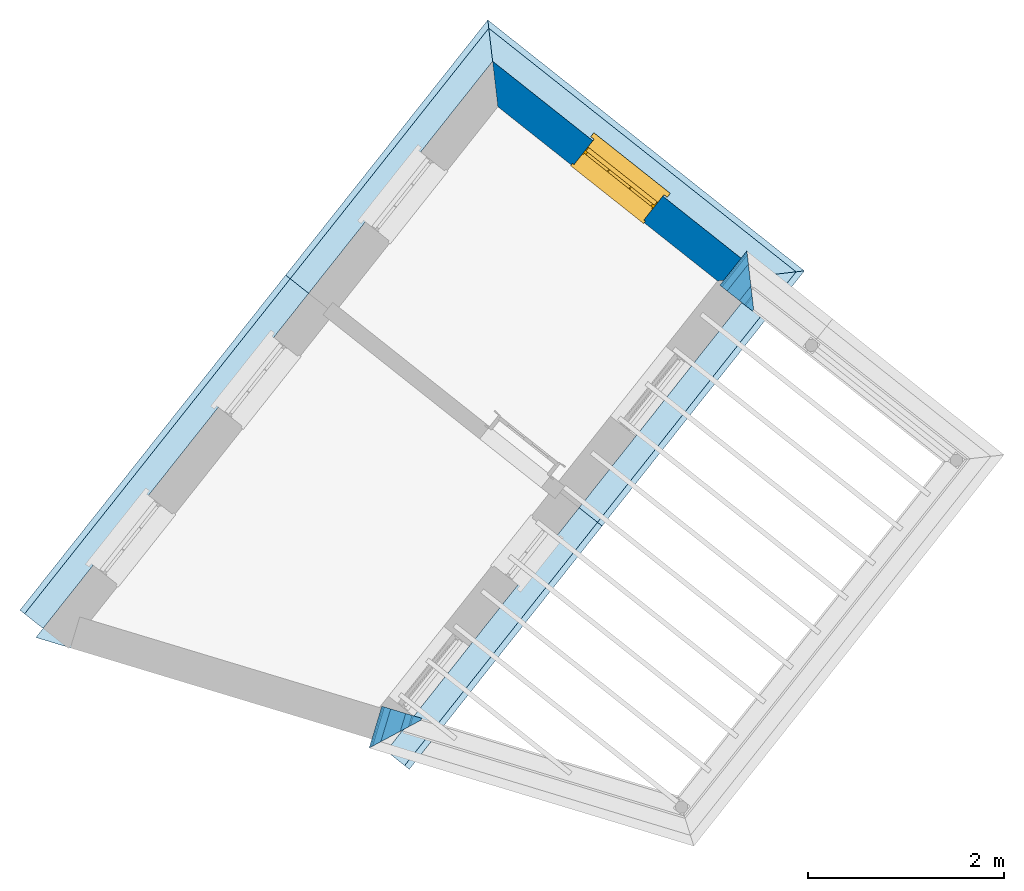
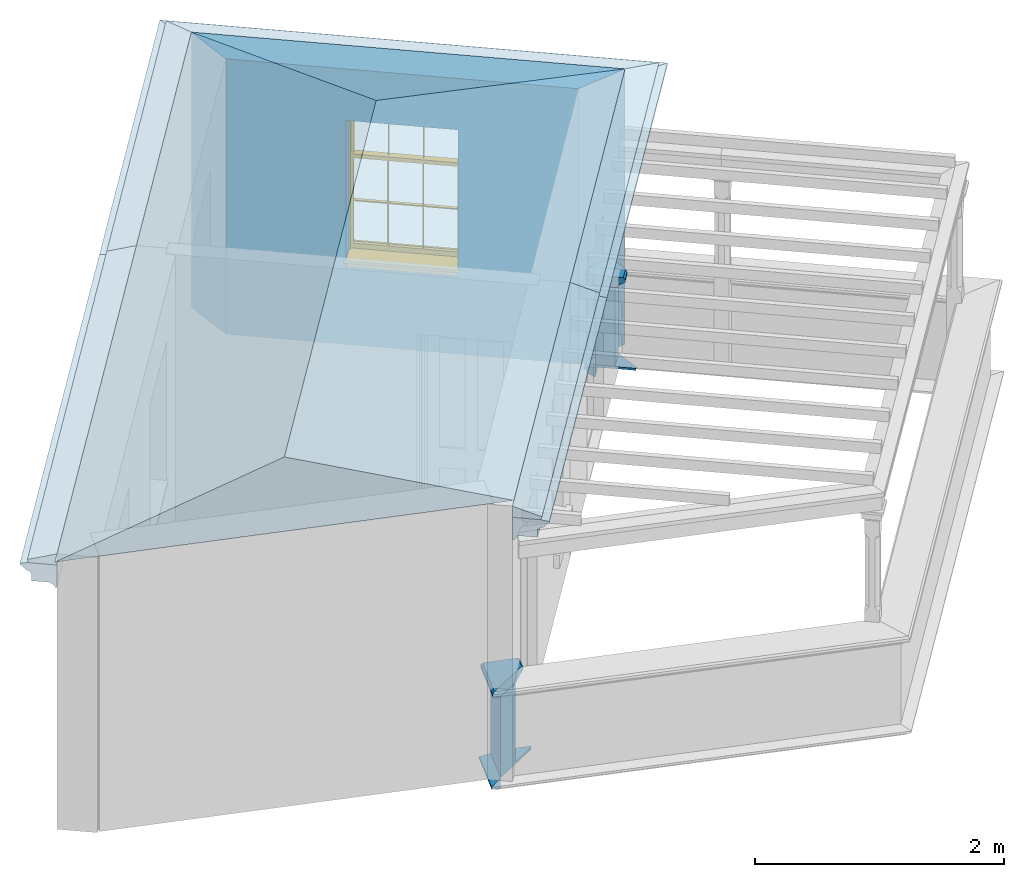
# One storey, part 5 of 5: 11 roofs, 7 walls, 1 window, 1 opening.
"""IFC4 building model written with IfcOpenShell, lengths in metres."""

from ifc_helpers import new_model, si_unit, frame, origin, origin_with_axes, place, context, subcontext, project, spatial, polyline, outline, extrude, clip, halfspace, faceted_brep, source, transform, mapped, material, layer, layer_set, layer_usage, material_profile, profile_set, profile_usage, type_object, type_shapes, element, fill, save


model = new_model("IFC4")

# Units and contexts
model_context = context("Model", 3, world=origin_with_axes())
body_context = subcontext(model_context, "Body", "Model", "MODEL_VIEW")
ifc_project = project(units=[si_unit("PLANEANGLEUNIT", "RADIAN"), si_unit("MASSUNIT", "GRAM", prefix="KILO"), si_unit("FORCEUNIT", "NEWTON", prefix="KILO"), si_unit("LENGTHUNIT", "METRE"), si_unit("AREAUNIT", "SQUARE_METRE"), si_unit("VOLUMEUNIT", "CUBIC_METRE")], contexts=[model_context, model_context])

# Sites, building, storey
site_1_placement = place(None, origin_with_axes())
site_1 = spatial("IfcSite", under=ifc_project, at=site_1_placement, Name="Tamar")
site_2_placement = place(site_1_placement, origin_with_axes())
site_2 = spatial("IfcSite", under=site_1, at=site_2_placement, Name="Site plot-5", CompositionType="ELEMENT")
building_placement = place(None, origin_with_axes())
building = spatial("IfcBuilding", under=site_2, at=building_placement, Name="Building plot-5", CompositionType="ELEMENT")
storey_placement = place(None, frame((0.0, 0.0, 30.15), z_axis=(0.0, 0.0, 1.0), x_axis=(1.0, 0.0, 0.0)))
storey = spatial("IfcBuildingStorey", under=building, at=storey_placement, Name="plot-5 2", CompositionType="ELEMENT", Elevation=30.15)

# Wall, opening, window
ifc_material = material(Name="Masonry")
ifc_layer = layer(ifc_material, 0.33, ventilated=False)
ifc_layer_set = layer_set([ifc_layer], Name="exterior_0.08_0.25")
ifc_layer_usage = layer_usage(ifc_layer_set, "AXIS2", "POSITIVE", -0.25)
wall_type_1 = type_object("IfcWallType", Name="exterior_0.08_0.25", PredefinedType="SOLIDWALL", material=ifc_layer_set)
wall_1_placement = place(storey_placement, frame((231.883370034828, 275.676458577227, 0.0), z_axis=(0.0, 0.0, 1.0), x_axis=(-0.783658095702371, 0.621192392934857, 0.0)))
wall_1 = element("IfcWall", 1, at=wall_1_placement, inside=storey, type_object=wall_type_1, material=ifc_layer_usage, Name="exterior", context=body_context, shape_type="SweptSolid", body=[
    extrude(outline(polyline([(0.0800000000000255, 0.0799999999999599), (-0.250000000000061, -0.249999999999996), (3.27031657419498, -0.249999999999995), (2.94031657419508, 0.0799999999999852), (0.0800000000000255, 0.0799999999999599)])), origin_with_axes(), (0.0, 0.0, 1.0), 2.7),
])
opening_placement = place(wall_1_placement, frame((1.0551582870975, 0.0, 0.75)))
opening = element("IfcOpeningElement", 2, at=opening_placement, cuts=wall_1, Name="My Opening", ObjectType="Opening", context=body_context, shape_type="SweptSolid", body=[
    extrude(outline(polyline([(0.0, -0.269999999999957), (0.910000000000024, -0.269999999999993), (0.910000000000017, 1.09999999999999), (-6.88338275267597e-15, 1.10000000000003), (0.0, -0.269999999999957)])), origin_with_axes(), (0.0, 0.0, 1.0), 1.445),
])
window_type = type_object("IfcWindowType", Name="sash_shorter", PartitioningType="DOUBLE_PANEL_HORIZONTAL", PredefinedType="NOTDEFINED")
shared_shape = source(origin(), body_context, "Body", "Brep", [
    faceted_brep([(0.876875, 0.145, 0.999097), (0.876875, 0.145, 1.411875), (0.9, 0.145, 1.435), (0.033125, 0.145, 1.411875), (0.033125, 0.145, 0.999097), (0.01, 0.145, 1.435), (0.033125, 0.115, 1.411875), (0.01, 0.115, 1.435), (0.033125, 0.115, 0.999097), (0.876875, 0.115, 1.411875), (0.876875, 0.115, 0.999097), (0.9, 0.115, 1.435), (0.033125, 0.145, 0.960972), (0.01, 0.145, 0.960972), (0.033125, 0.145, 0.548195), (0.876875, 0.145, 0.960972), (0.876875, 0.145, 0.548195), (0.9, 0.145, 0.960972), (0.876875, 0.145, 0.538195), (0.876875, 0.145, 0.125417), (0.9, 0.145, 0.077167), (0.033125, 0.145, 0.125417), (0.033125, 0.145, 0.538195), (0.01, 0.145, 0.077167), (0.9, 0.115, 0.960972), (0.01, 0.115, 0.960972), (-0.0425, 0.0, 0.01), (-0.0425, -0.05, 0.001667), (0.0, 0.0, 0.01), (0.9525, 0.0, 0.01), (0.91, 0.0, 0.01), (0.9525, -0.05, 0.001667), (-0.02, 0.33, 0.077167), (0.0, 0.33, 0.077167), (-0.02, 0.36, 0.077167), (0.0, 0.19, 0.077167), (0.01, 0.19, 0.077167), (0.91, 0.19, 0.077167), (0.91, 0.33, 0.077167), (0.9, 0.19, 0.077167), (0.93, 0.33, 0.077167), (0.93, 0.36, 0.077167), (0.01, 0.145, 0.999097), (0.01, 0.175, 0.999097), (0.9, 0.145, 0.999097), (0.9, 0.175, 0.999097), (0.876875, 0.175, 0.125417), (0.876875, 0.175, 0.538195), (0.9, 0.175, 0.077167), (0.876875, 0.175, 0.548195), (0.876875, 0.175, 0.960972), (0.033125, 0.175, 0.125417), (0.01, 0.175, 0.077167), (0.033125, 0.175, 0.538195), (0.033125, 0.175, 0.960972), (0.033125, 0.175, 0.548195), (-0.02, 0.33, 0.052167), (-0.02, 0.36, 0.052167), (0.93, 0.36, 0.052167), (0.93, 0.33, 0.052167), (0.91, 0.33, 0.052167), (0.0, 0.33, 0.052167), (0.91, 0.1, 0.026667), (0.0, 0.1, 0.026667), (-0.0425, -0.05, -0.123333), (0.9525, -0.05, -0.123333), (-0.0425, 0.0, -0.123333), (0.9525, 0.0, -0.123333), (0.01, 0.19, 1.435), (0.9, 0.19, 1.435), (0.0, 0.19, 1.445), (0.91, 0.19, 1.445), (0.01, 0.1, 0.077167), (0.9, 0.1, 0.077167), (0.592292, 0.145, 0.125417), (0.592292, 0.175, 0.125417), (0.317708, 0.175, 0.125417), (0.317708, 0.145, 0.125417), (0.592292, 0.145, 0.548195), (0.317708, 0.145, 0.548195), (0.317708, 0.145, 0.538195), (0.592292, 0.145, 0.538195), (0.592292, 0.175, 0.548195), (0.317708, 0.175, 0.548195), (0.602292, 0.175, 0.548195), (0.602292, 0.145, 0.548195), (0.317708, 0.175, 0.538195), (0.307708, 0.175, 0.125417), (0.307708, 0.175, 0.538195), (0.602292, 0.175, 0.538195), (0.602292, 0.175, 0.125417), (0.592292, 0.175, 0.538195), (0.307708, 0.175, 0.548195), (0.317708, 0.175, 0.960972), (0.307708, 0.175, 0.960972), (0.602292, 0.175, 0.960972), (0.592292, 0.175, 0.960972), (0.307708, 0.145, 0.538195), (0.307708, 0.145, 0.125417), (0.307708, 0.145, 0.548195), (0.307708, 0.145, 0.960972), (0.592292, 0.145, 0.960972), (0.317708, 0.145, 0.960972), (0.602292, 0.145, 0.960972), (0.602292, 0.145, 0.538195), (0.602292, 0.145, 0.125417), (0.317708, 0.115, 1.411875), (0.307708, 0.115, 1.411875), (0.307708, 0.115, 0.999097), (0.317708, 0.115, 0.999097), (0.602292, 0.115, 1.411875), (0.592292, 0.115, 1.411875), (0.592292, 0.115, 0.999097), (0.602292, 0.115, 0.999097), (0.317708, 0.145, 0.999097), (0.307708, 0.145, 0.999097), (0.307708, 0.145, 1.411875), (0.317708, 0.145, 1.411875), (0.602292, 0.145, 0.999097), (0.592292, 0.145, 0.999097), (0.592292, 0.145, 1.411875), (0.602292, 0.145, 1.411875), (0.91, 0.1, 1.445), (0.9, 0.1, 1.435), (0.01, 0.1, 1.435), (0.0, 0.1, 1.445), (0.91, 0.0, 0.0), (0.0, 0.0, 0.0), (0.91, 0.33, 0.0), (0.0, 0.33, 0.0)], [[[0, 1, 2]], [[3, 4, 5]], [[6, 7, 8]], [[9, 10, 11]], [[12, 13, 14]], [[15, 16, 17]], [[18, 19, 20]], [[21, 22, 23]], [[24, 15, 17]], [[13, 12, 25]], [[26, 27, 28]], [[29, 30, 31]], [[32, 33, 34]], [[35, 36, 33]], [[37, 38, 39]], [[40, 41, 38]], [[42, 4, 43]], [[44, 45, 0]], [[46, 47, 48]], [[49, 50, 45]], [[51, 52, 53]], [[54, 55, 43]], [[38, 33, 36, 39]], [[41, 34, 33, 38]], [[56, 32, 34, 57]], [[57, 34, 41, 58]], [[58, 41, 40, 59]], [[57, 58, 60, 61]], [[52, 48, 39, 36]], [[62, 63, 28, 30]], [[27, 31, 30, 28]], [[27, 64, 65, 31]], [[66, 67, 65, 64]], [[2, 5, 68, 69]], [[68, 70, 71, 69]], [[20, 23, 72, 73]], [[73, 72, 63, 62]], [[74, 75, 76, 77]], [[78, 79, 80, 81]], [[78, 82, 83, 79]], [[16, 49, 84, 85]], [[86, 76, 87, 88]], [[89, 90, 75, 91]], [[92, 88, 53, 55]], [[82, 91, 86, 83]], [[93, 83, 92, 94]], [[95, 84, 82, 96]], [[89, 84, 49, 47]], [[97, 88, 87, 98]], [[22, 53, 88, 97]], [[81, 91, 75, 74]], [[80, 86, 91, 81]], [[77, 76, 86, 80]], [[99, 92, 55, 14]], [[100, 94, 92, 99]], [[101, 96, 82, 78]], [[79, 83, 93, 102]], [[85, 84, 95, 103]], [[104, 89, 47, 18]], [[105, 90, 89, 104]], [[104, 18, 16, 85]], [[80, 97, 98, 77]], [[104, 81, 74, 105]], [[103, 101, 78, 85]], [[99, 14, 22, 97]], [[102, 100, 99, 79]], [[106, 107, 108, 109]], [[110, 111, 112, 113]], [[114, 115, 116, 117]], [[118, 119, 120, 121]], [[107, 116, 115, 108]], [[111, 120, 119, 112]], [[109, 114, 117, 106]], [[113, 118, 121, 110]], [[85, 78, 81, 104]], [[84, 89, 91, 82]], [[83, 86, 88, 92]], [[79, 99, 97, 80]], [[109, 112, 119, 114]], [[102, 93, 96, 101]], [[106, 117, 120, 111]], [[98, 87, 51, 21]], [[6, 3, 116, 107]], [[110, 121, 1, 9]], [[19, 46, 90, 105]], [[26, 66, 64, 27]], [[29, 31, 65, 67]], [[25, 24, 112, 109]], [[11, 7, 106, 111]], [[75, 48, 52, 76]], [[43, 45, 96, 93]], [[45, 43, 114, 119]], [[5, 2, 120, 117]], [[24, 25, 102, 101]], [[42, 5, 4]], [[2, 44, 0]], [[49, 45, 48, 47]], [[52, 43, 55, 53]], [[14, 13, 23, 22]], [[20, 17, 16, 18]], [[24, 11, 10]], [[25, 8, 7]], [[8, 4, 3, 6]], [[9, 1, 0, 10]], [[15, 50, 49, 16]], [[18, 47, 46, 19]], [[21, 51, 53, 22]], [[14, 55, 54, 12]], [[44, 2, 69, 45]], [[68, 5, 42, 43]], [[36, 35, 70, 68]], [[39, 69, 71, 37]], [[62, 122, 123, 73]], [[63, 72, 124, 125]], [[8, 108, 115, 4]], [[113, 10, 0, 118]], [[94, 100, 12, 54]], [[17, 20, 73, 24]], [[72, 23, 13, 25]], [[52, 36, 68, 43]], [[69, 39, 48, 45]], [[11, 24, 73, 123]], [[7, 124, 72, 25]], [[23, 77, 98]], [[98, 21, 23]], [[105, 74, 20]], [[20, 19, 105]], [[20, 74, 77, 23]], [[113, 112, 24]], [[24, 10, 113]], [[25, 109, 108]], [[108, 8, 25]], [[110, 9, 11]], [[11, 111, 110]], [[7, 6, 107]], [[107, 106, 7]], [[5, 117, 116]], [[116, 3, 5]], [[121, 120, 2]], [[2, 1, 121]], [[11, 123, 124, 7]], [[122, 125, 124, 123]], [[43, 93, 94]], [[94, 54, 43]], [[96, 45, 95]], [[50, 95, 45]], [[15, 103, 95, 50]], [[48, 75, 90]], [[90, 46, 48]], [[87, 76, 52]], [[52, 51, 87]], [[103, 15, 24]], [[24, 101, 103]], [[100, 102, 25]], [[25, 12, 100]], [[115, 114, 43]], [[43, 4, 115]], [[118, 0, 45]], [[45, 119, 118]], [[71, 70, 125, 122]], [[70, 35, 63, 125]], [[122, 62, 37, 71]], [[126, 67, 66, 127]], [[60, 58, 59]], [[38, 60, 59, 40]], [[61, 56, 57]], [[32, 56, 61, 33]], [[61, 60, 128, 129]], [[62, 60, 38, 37]], [[126, 128, 60, 62]], [[33, 61, 63, 35]], [[61, 129, 127, 63]], [[128, 126, 127, 129]], [[28, 127, 66, 26]], [[63, 127, 28]], [[29, 67, 126, 30]], [[30, 126, 62]]]),
])
type_shapes(window_type, [shared_shape])
window_placement = place(storey_placement, frame((231.224208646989, 276.543502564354, 0.75), z_axis=(0.0, 0.0, 1.0), x_axis=(-0.713128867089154, 0.565285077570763, 0.0)))
window = element("IfcWindow", 3, at=window_placement, inside=storey, type_object=window_type, Name="circulation outside window", OverallHeight=1.445, OverallWidth=0.91, context=body_context, shape_type="MappedRepresentation", body=[
    mapped(shared_shape, transform((0.0, 0.0, 0.0), scale=1.0)),
])
fill(opening, window)

# Walls
ifc_material_profile_1 = material_profile(None, outline(polyline([(0.25, 0.0), (0.25, 0.795), (0.09, 0.795), (0.09, 0.02), (-0.08, 0.02), (-0.08, 0.0), (0.25, 0.0)])))
ifc_profile_set_1 = profile_set([ifc_material_profile_1])
ifc_profile_usage_1 = profile_usage(ifc_profile_set_1)
wall_type_2 = type_object("IfcWallType", Name="parapet_0", PredefinedType="PARAPET", material=ifc_profile_set_1)
wall_2_placement = place(storey_placement, frame((228.357170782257, 270.171798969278, 0.0), z_axis=(0.289364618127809, 0.957218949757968, 0.0), x_axis=(-0.957218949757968, 0.289364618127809, 0.0)))
element("IfcWall", 4, at=wall_2_placement, inside=storey, type_object=wall_type_2, material=ifc_profile_usage_1, Name="parapet_0", context=body_context, shape_type="Clipping", body=[
    clip(clip(extrude(outline(polyline([(0.25, 0.0), (0.25, 0.795), (0.09, 0.795), (0.09, 0.02), (-0.08, 0.02), (-0.08, 0.0), (0.25, 0.0)])), origin_with_axes(), (0.0, 0.0, 1.0), 2.09999999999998), halfspace(frame((0.0, 0.0, 1.09999999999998), z_axis=(1.41496223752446e-14, 0.0, -1.0), x_axis=(0.0, 1.0, 0.0)), True)), halfspace(frame((0.0, 0.0, 1.0), z_axis=(-0.707106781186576, 0.0, -0.707106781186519), x_axis=(0.0, 1.0, 0.0)), False)),
])
ifc_profile_usage_2 = profile_usage(ifc_profile_set_1)
wall_3_placement = place(storey_placement, frame((231.442992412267, 274.621865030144, 0.0), z_axis=(0.621192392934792, 0.783658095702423, 0.0), x_axis=(-0.783658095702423, 0.621192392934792, 0.0)))
element("IfcWall", 5, at=wall_3_placement, inside=storey, type_object=wall_type_2, material=ifc_profile_usage_2, Name="parapet_0", context=body_context, shape_type="Clipping", body=[
    clip(clip(extrude(outline(polyline([(0.25, 0.0), (0.25, 0.795), (0.09, 0.795), (0.09, 0.02), (-0.08, 0.02), (-0.08, 0.0), (0.25, 0.0)])), origin_with_axes(), (0.0, 0.0, 1.0), 2.1), halfspace(frame((0.0, 0.0, 1.1), z_axis=(0.707106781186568, 0.0, -0.707106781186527), x_axis=(0.0, 1.0, 0.0)), True)), halfspace(frame((0.0, 0.0, 1.0), z_axis=(-6.12323399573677e-17, 0.0, -1.0), x_axis=(0.0, 1.0, 0.0)), False)),
])
ifc_material_profile_2 = material_profile(None, outline(polyline([(0.265, 0.795), (0.268, 0.807), (0.274, 0.816), (0.283, 0.822), (0.295, 0.825), (0.295, 0.84), (0.305, 0.84), (0.317, 0.842), (0.326, 0.849), (0.333, 0.858), (0.335, 0.87), (0.333, 0.882), (0.326, 0.891), (0.317, 0.898), (0.305, 0.9), (0.035, 0.9), (0.023, 0.898), (0.014, 0.891), (0.007, 0.882), (0.005, 0.87), (0.007, 0.858), (0.014, 0.849), (0.023, 0.842), (0.035, 0.84), (0.045, 0.84), (0.045, 0.825), (0.057, 0.822), (0.066, 0.816), (0.072, 0.807), (0.075, 0.795), (0.265, 0.795)])))
ifc_profile_set_2 = profile_set([ifc_material_profile_2])
ifc_profile_usage_3 = profile_usage(ifc_profile_set_2)
wall_type_3 = type_object("IfcWallType", Name="parapet_1", PredefinedType="PARAPET", material=ifc_profile_set_2)
wall_4_placement = place(storey_placement, frame((228.357170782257, 270.171798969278, 0.0), z_axis=(0.289364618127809, 0.957218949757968, 0.0), x_axis=(-0.957218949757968, 0.289364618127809, 0.0)))
element("IfcWall", 6, at=wall_4_placement, inside=storey, type_object=wall_type_3, material=ifc_profile_usage_3, Name="parapet_1", context=body_context, shape_type="Clipping", body=[
    clip(clip(extrude(outline(polyline([(0.265, 0.795), (0.268, 0.807), (0.274, 0.816), (0.283, 0.822), (0.295, 0.825), (0.295, 0.84), (0.305, 0.84), (0.317, 0.842), (0.326, 0.849), (0.333, 0.858), (0.335, 0.87), (0.333, 0.882), (0.326, 0.891), (0.317, 0.898), (0.305, 0.9), (0.035, 0.9), (0.023, 0.898), (0.014, 0.891), (0.007, 0.882), (0.005, 0.87), (0.007, 0.858), (0.014, 0.849), (0.023, 0.842), (0.035, 0.84), (0.045, 0.84), (0.045, 0.825), (0.057, 0.822), (0.066, 0.816), (0.072, 0.807), (0.075, 0.795), (0.265, 0.795)])), origin_with_axes(), (0.0, 0.0, 1.0), 2.09999999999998), halfspace(frame((0.0, 0.0, 1.09999999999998), z_axis=(1.41496223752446e-14, 0.0, -1.0), x_axis=(0.0, 1.0, 0.0)), True)), halfspace(frame((0.0, 0.0, 1.0), z_axis=(-0.707106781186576, 0.0, -0.707106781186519), x_axis=(0.0, 1.0, 0.0)), False)),
])
ifc_profile_usage_4 = profile_usage(ifc_profile_set_2)
wall_5_placement = place(storey_placement, frame((231.442992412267, 274.621865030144, 0.0), z_axis=(0.621192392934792, 0.783658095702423, 0.0), x_axis=(-0.783658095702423, 0.621192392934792, 0.0)))
element("IfcWall", 7, at=wall_5_placement, inside=storey, type_object=wall_type_3, material=ifc_profile_usage_4, Name="parapet_1", context=body_context, shape_type="Clipping", body=[
    clip(clip(extrude(outline(polyline([(0.265, 0.795), (0.268, 0.807), (0.274, 0.816), (0.283, 0.822), (0.295, 0.825), (0.295, 0.84), (0.305, 0.84), (0.317, 0.842), (0.326, 0.849), (0.333, 0.858), (0.335, 0.87), (0.333, 0.882), (0.326, 0.891), (0.317, 0.898), (0.305, 0.9), (0.035, 0.9), (0.023, 0.898), (0.014, 0.891), (0.007, 0.882), (0.005, 0.87), (0.007, 0.858), (0.014, 0.849), (0.023, 0.842), (0.035, 0.84), (0.045, 0.84), (0.045, 0.825), (0.057, 0.822), (0.066, 0.816), (0.072, 0.807), (0.075, 0.795), (0.265, 0.795)])), origin_with_axes(), (0.0, 0.0, 1.0), 2.1), halfspace(frame((0.0, 0.0, 1.1), z_axis=(0.707106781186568, 0.0, -0.707106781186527), x_axis=(0.0, 1.0, 0.0)), True)), halfspace(frame((0.0, 0.0, 1.0), z_axis=(-6.12323399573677e-17, 0.0, -1.0), x_axis=(0.0, 1.0, 0.0)), False)),
])
ifc_material_profile_3 = material_profile(None, outline(polyline([(0.25, -0.1), (0.265, -0.1), (0.265, -0.085), (0.278, -0.084), (0.289, -0.081), (0.301, -0.074), (0.309, -0.065), (0.315, -0.055), (0.324, -0.044), (0.334, -0.038), (0.345, -0.035), (0.345, -0.015), (0.25, 0.0), (0.25, -0.1)])))
ifc_profile_set_3 = profile_set([ifc_material_profile_3])
ifc_profile_usage_5 = profile_usage(ifc_profile_set_3)
wall_type_4 = type_object("IfcWallType", Name="parapet_2", PredefinedType="PARAPET", material=ifc_profile_set_3)
wall_6_placement = place(storey_placement, frame((228.357170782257, 270.171798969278, 0.0), z_axis=(0.289364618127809, 0.957218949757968, 0.0), x_axis=(-0.957218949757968, 0.289364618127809, 0.0)))
element("IfcWall", 8, at=wall_6_placement, inside=storey, type_object=wall_type_4, material=ifc_profile_usage_5, Name="parapet_2", context=body_context, shape_type="Clipping", body=[
    clip(clip(extrude(outline(polyline([(0.25, -0.1), (0.265, -0.1), (0.265, -0.085), (0.278, -0.084), (0.289, -0.081), (0.301, -0.074), (0.309, -0.065), (0.315, -0.055), (0.324, -0.044), (0.334, -0.038), (0.345, -0.035), (0.345, -0.015), (0.25, 0.0), (0.25, -0.1)])), origin_with_axes(), (0.0, 0.0, 1.0), 2.09999999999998), halfspace(frame((0.0, 0.0, 1.09999999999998), z_axis=(1.41496223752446e-14, 0.0, -1.0), x_axis=(0.0, 1.0, 0.0)), True)), halfspace(frame((0.0, 0.0, 1.0), z_axis=(-0.707106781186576, 0.0, -0.707106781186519), x_axis=(0.0, 1.0, 0.0)), False)),
])
ifc_profile_usage_6 = profile_usage(ifc_profile_set_3)
wall_7_placement = place(storey_placement, frame((231.442992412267, 274.621865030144, 0.0), z_axis=(0.621192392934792, 0.783658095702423, 0.0), x_axis=(-0.783658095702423, 0.621192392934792, 0.0)))
element("IfcWall", 9, at=wall_7_placement, inside=storey, type_object=wall_type_4, material=ifc_profile_usage_6, Name="parapet_2", context=body_context, shape_type="Clipping", body=[
    clip(clip(extrude(outline(polyline([(0.25, -0.1), (0.265, -0.1), (0.265, -0.085), (0.278, -0.084), (0.289, -0.081), (0.301, -0.074), (0.309, -0.065), (0.315, -0.055), (0.324, -0.044), (0.334, -0.038), (0.345, -0.035), (0.345, -0.015), (0.25, 0.0), (0.25, -0.1)])), origin_with_axes(), (0.0, 0.0, 1.0), 2.1), halfspace(frame((0.0, 0.0, 1.1), z_axis=(0.707106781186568, 0.0, -0.707106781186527), x_axis=(0.0, 1.0, 0.0)), True)), halfspace(frame((0.0, 0.0, 1.0), z_axis=(-6.12323399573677e-17, 0.0, -1.0), x_axis=(0.0, 1.0, 0.0)), False)),
])

# Roofs
ifc_material_profile_4 = material_profile(None, outline(polyline([(0.25, -0.11), (0.25, -0.33), (0.265, -0.33), (0.268, -0.318), (0.274, -0.309), (0.283, -0.303), (0.295, -0.3), (0.295, -0.285), (0.455, -0.285), (0.455, -0.205), (0.47, -0.205), (0.47, -0.19), (0.483, -0.189), (0.494, -0.186), (0.506, -0.179), (0.514, -0.17), (0.52, -0.16), (0.529, -0.149), (0.539, -0.143), (0.55, -0.14), (0.55, -0.12), (0.48, -0.11), (0.25, -0.11)])))
ifc_profile_set_4 = profile_set([ifc_material_profile_4])
ifc_profile_usage_7 = profile_usage(ifc_profile_set_4)
roof_type_1 = type_object("IfcRoofType", Name="eaves_0", PredefinedType="FREEFORM", material=ifc_profile_set_4)
roof_1_placement = place(storey_placement, frame((230.783432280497, 274.288844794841, 2.7), z_axis=(-0.62119239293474, -0.783658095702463, 0.0), x_axis=(0.783658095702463, -0.62119239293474, 0.0)))
element("IfcRoof", 10, at=roof_1_placement, inside=storey, type_object=roof_type_1, material=ifc_profile_usage_7, Name="eaves_0", context=body_context, shape_type="Clipping", body=[
    clip(clip(extrude(outline(polyline([(0.25, -0.11), (0.25, -0.33), (0.265, -0.33), (0.268, -0.318), (0.274, -0.309), (0.283, -0.303), (0.295, -0.3), (0.295, -0.285), (0.455, -0.285), (0.455, -0.205), (0.47, -0.205), (0.47, -0.19), (0.483, -0.189), (0.494, -0.186), (0.506, -0.179), (0.514, -0.17), (0.52, -0.16), (0.529, -0.149), (0.539, -0.143), (0.55, -0.14), (0.55, -0.12), (0.48, -0.11), (0.25, -0.11)])), origin_with_axes(), (0.0, 0.0, 1.0), 5.16768280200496), halfspace(frame((0.0, 0.0, 4.16768280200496), z_axis=(3.9355705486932e-15, 0.0, -1.0), x_axis=(0.0, 1.0, 0.0)), True)), halfspace(frame((0.0, 0.0, 1.0), z_axis=(3.9355705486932e-15, 0.0, -1.0), x_axis=(0.0, 1.0, 0.0)), False)),
])
ifc_profile_usage_8 = profile_usage(ifc_profile_set_4)
roof_2_placement = place(storey_placement, frame((232.504562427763, 276.460116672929, 2.7), z_axis=(-0.62119239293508, -0.783658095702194, 0.0), x_axis=(0.783658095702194, -0.62119239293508, 0.0)))
element("IfcRoof", 11, at=roof_2_placement, inside=storey, type_object=roof_type_1, material=ifc_profile_usage_8, Name="eaves_0", context=body_context, shape_type="Clipping", body=[
    clip(clip(extrude(outline(polyline([(0.25, -0.11), (0.25, -0.33), (0.265, -0.33), (0.268, -0.318), (0.274, -0.309), (0.283, -0.303), (0.295, -0.3), (0.295, -0.285), (0.455, -0.285), (0.455, -0.205), (0.47, -0.205), (0.47, -0.19), (0.483, -0.189), (0.494, -0.186), (0.506, -0.179), (0.514, -0.17), (0.52, -0.16), (0.529, -0.149), (0.539, -0.143), (0.55, -0.14), (0.55, -0.12), (0.48, -0.11), (0.25, -0.11)])), origin_with_axes(), (0.0, 0.0, 1.0), 4.77068773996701), halfspace(frame((0.0, 0.0, 3.77068773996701), z_axis=(-4.29495498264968e-13, 0.0, -1.0), x_axis=(0.0, 1.0, 0.0)), True)), halfspace(frame((0.0, 0.0, 1.0), z_axis=(-0.707106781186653, 0.0, -0.707106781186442), x_axis=(0.0, 1.0, 0.0)), False)),
])
ifc_profile_usage_9 = profile_usage(ifc_profile_set_4)
roof_3_placement = place(storey_placement, frame((228.732816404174, 278.173848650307, 2.7), z_axis=(0.783658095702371, -0.621192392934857, 0.0), x_axis=(0.621192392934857, 0.783658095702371, 0.0)))
element("IfcRoof", 12, at=roof_3_placement, inside=storey, type_object=roof_type_1, material=ifc_profile_usage_9, Name="eaves_0", context=body_context, shape_type="Clipping", body=[
    clip(clip(extrude(outline(polyline([(0.25, -0.11), (0.25, -0.33), (0.265, -0.33), (0.268, -0.318), (0.274, -0.309), (0.283, -0.303), (0.295, -0.3), (0.295, -0.285), (0.455, -0.285), (0.455, -0.205), (0.47, -0.205), (0.47, -0.19), (0.483, -0.189), (0.494, -0.186), (0.506, -0.179), (0.514, -0.17), (0.52, -0.16), (0.529, -0.149), (0.539, -0.143), (0.55, -0.14), (0.55, -0.12), (0.48, -0.11), (0.25, -0.11)])), origin_with_axes(), (0.0, 0.0, 1.0), 5.02031657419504), halfspace(frame((0.0, 0.0, 4.02031657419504), z_axis=(0.707106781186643, 0.0, -0.707106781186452), x_axis=(0.0, 1.0, 0.0)), True)), halfspace(frame((0.0, 0.0, 1.0), z_axis=(-0.707106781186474, 0.0, -0.707106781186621), x_axis=(0.0, 1.0, 0.0)), False)),
])
ifc_profile_usage_10 = profile_usage(ifc_profile_set_4)
roof_4_placement = place(storey_placement, frame((227.174151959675, 274.597726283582, 2.7), z_axis=(0.621192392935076, 0.783658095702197, 0.0), x_axis=(-0.783658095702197, 0.621192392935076, 0.0)))
element("IfcRoof", 13, at=roof_4_placement, inside=storey, type_object=roof_type_1, material=ifc_profile_usage_10, Name="eaves_0", context=body_context, shape_type="Clipping", body=[
    clip(clip(extrude(outline(polyline([(0.25, -0.11), (0.25, -0.33), (0.265, -0.33), (0.268, -0.318), (0.274, -0.309), (0.283, -0.303), (0.295, -0.3), (0.295, -0.285), (0.455, -0.285), (0.455, -0.205), (0.47, -0.205), (0.47, -0.19), (0.483, -0.189), (0.494, -0.186), (0.506, -0.179), (0.514, -0.17), (0.52, -0.16), (0.529, -0.149), (0.539, -0.143), (0.55, -0.14), (0.55, -0.12), (0.48, -0.11), (0.25, -0.11)])), origin_with_axes(), (0.0, 0.0, 1.0), 4.77068773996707), halfspace(frame((0.0, 0.0, 3.77068773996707), z_axis=(0.707106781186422, 0.0, -0.707106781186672), x_axis=(0.0, 1.0, 0.0)), True)), halfspace(frame((0.0, 0.0, 1.0), z_axis=(8.26946079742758e-16, 0.0, -1.0), x_axis=(0.0, 1.0, 0.0)), False)),
])
ifc_profile_usage_11 = profile_usage(ifc_profile_set_4)
roof_5_placement = place(storey_placement, frame((224.464203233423, 271.179021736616, 2.7), z_axis=(0.621192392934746, 0.783658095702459, 0.0), x_axis=(-0.783658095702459, 0.621192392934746, 0.0)))
element("IfcRoof", 14, at=roof_5_placement, inside=storey, type_object=roof_type_1, material=ifc_profile_usage_11, Name="eaves_0", context=body_context, shape_type="Clipping", body=[
    clip(clip(extrude(outline(polyline([(0.25, -0.11), (0.25, -0.33), (0.265, -0.33), (0.268, -0.318), (0.274, -0.309), (0.283, -0.303), (0.295, -0.3), (0.295, -0.285), (0.455, -0.285), (0.455, -0.205), (0.47, -0.205), (0.47, -0.19), (0.483, -0.189), (0.494, -0.186), (0.506, -0.179), (0.514, -0.17), (0.52, -0.16), (0.529, -0.149), (0.539, -0.143), (0.55, -0.14), (0.55, -0.12), (0.48, -0.11), (0.25, -0.11)])), origin_with_axes(), (0.0, 0.0, 1.0), 6.36249502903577), halfspace(frame((0.0, 0.0, 5.36249502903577), z_axis=(4.22711695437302e-13, 0.0, -1.0), x_axis=(0.0, 1.0, 0.0)), True)), halfspace(frame((0.0, 0.0, 1.0), z_axis=(-2.72576759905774e-15, 0.0, -1.0), x_axis=(0.0, 1.0, 0.0)), False)),
])
ifc_material_profile_5 = material_profile(None, outline(polyline([(0.25, -0.11), (0.48, -0.11), (0.49, -0.08), (0.25, 0.0), (0.25, -0.11)])))
ifc_profile_set_5 = profile_set([ifc_material_profile_5])
ifc_profile_usage_12 = profile_usage(ifc_profile_set_5)
roof_type_2 = type_object("IfcRoofType", Name="eaves_1", PredefinedType="FREEFORM", material=ifc_profile_set_5)
roof_6_placement = place(storey_placement, frame((230.783432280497, 274.288844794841, 2.7), z_axis=(-0.62119239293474, -0.783658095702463, 0.0), x_axis=(0.783658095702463, -0.62119239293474, 0.0)))
element("IfcRoof", 15, at=roof_6_placement, inside=storey, type_object=roof_type_2, material=ifc_profile_usage_12, Name="eaves_1", context=body_context, shape_type="Clipping", body=[
    clip(clip(extrude(outline(polyline([(0.25, -0.11), (0.48, -0.11), (0.49, -0.08), (0.25, 0.0), (0.25, -0.11)])), origin_with_axes(), (0.0, 0.0, 1.0), 5.16768280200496), halfspace(frame((0.0, 0.0, 4.16768280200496), z_axis=(3.9355705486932e-15, 0.0, -1.0), x_axis=(0.0, 1.0, 0.0)), True)), halfspace(frame((0.0, 0.0, 1.0), z_axis=(3.9355705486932e-15, 0.0, -1.0), x_axis=(0.0, 1.0, 0.0)), False)),
])
ifc_profile_usage_13 = profile_usage(ifc_profile_set_5)
roof_7_placement = place(storey_placement, frame((232.504562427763, 276.460116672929, 2.7), z_axis=(-0.62119239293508, -0.783658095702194, 0.0), x_axis=(0.783658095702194, -0.62119239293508, 0.0)))
element("IfcRoof", 16, at=roof_7_placement, inside=storey, type_object=roof_type_2, material=ifc_profile_usage_13, Name="eaves_1", context=body_context, shape_type="Clipping", body=[
    clip(clip(extrude(outline(polyline([(0.25, -0.11), (0.48, -0.11), (0.49, -0.08), (0.25, 0.0), (0.25, -0.11)])), origin_with_axes(), (0.0, 0.0, 1.0), 4.77068773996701), halfspace(frame((0.0, 0.0, 3.77068773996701), z_axis=(-4.29495498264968e-13, 0.0, -1.0), x_axis=(0.0, 1.0, 0.0)), True)), halfspace(frame((0.0, 0.0, 1.0), z_axis=(-0.707106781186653, 0.0, -0.707106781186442), x_axis=(0.0, 1.0, 0.0)), False)),
])
ifc_profile_usage_14 = profile_usage(ifc_profile_set_5)
roof_8_placement = place(storey_placement, frame((228.732816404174, 278.173848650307, 2.7), z_axis=(0.783658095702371, -0.621192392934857, 0.0), x_axis=(0.621192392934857, 0.783658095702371, 0.0)))
element("IfcRoof", 17, at=roof_8_placement, inside=storey, type_object=roof_type_2, material=ifc_profile_usage_14, Name="eaves_1", context=body_context, shape_type="Clipping", body=[
    clip(clip(extrude(outline(polyline([(0.25, -0.11), (0.48, -0.11), (0.49, -0.08), (0.25, 0.0), (0.25, -0.11)])), origin_with_axes(), (0.0, 0.0, 1.0), 5.02031657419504), halfspace(frame((0.0, 0.0, 4.02031657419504), z_axis=(0.707106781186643, 0.0, -0.707106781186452), x_axis=(0.0, 1.0, 0.0)), True)), halfspace(frame((0.0, 0.0, 1.0), z_axis=(-0.707106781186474, 0.0, -0.707106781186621), x_axis=(0.0, 1.0, 0.0)), False)),
])
ifc_profile_usage_15 = profile_usage(ifc_profile_set_5)
roof_9_placement = place(storey_placement, frame((227.174151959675, 274.597726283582, 2.7), z_axis=(0.621192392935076, 0.783658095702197, 0.0), x_axis=(-0.783658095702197, 0.621192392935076, 0.0)))
element("IfcRoof", 18, at=roof_9_placement, inside=storey, type_object=roof_type_2, material=ifc_profile_usage_15, Name="eaves_1", context=body_context, shape_type="Clipping", body=[
    clip(clip(extrude(outline(polyline([(0.25, -0.11), (0.48, -0.11), (0.49, -0.08), (0.25, 0.0), (0.25, -0.11)])), origin_with_axes(), (0.0, 0.0, 1.0), 4.77068773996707), halfspace(frame((0.0, 0.0, 3.77068773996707), z_axis=(0.707106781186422, 0.0, -0.707106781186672), x_axis=(0.0, 1.0, 0.0)), True)), halfspace(frame((0.0, 0.0, 1.0), z_axis=(8.26946079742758e-16, 0.0, -1.0), x_axis=(0.0, 1.0, 0.0)), False)),
])
ifc_profile_usage_16 = profile_usage(ifc_profile_set_5)
roof_10_placement = place(storey_placement, frame((224.464203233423, 271.179021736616, 2.7), z_axis=(0.621192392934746, 0.783658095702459, 0.0), x_axis=(-0.783658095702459, 0.621192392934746, 0.0)))
element("IfcRoof", 19, at=roof_10_placement, inside=storey, type_object=roof_type_2, material=ifc_profile_usage_16, Name="eaves_1", context=body_context, shape_type="Clipping", body=[
    clip(clip(extrude(outline(polyline([(0.25, -0.11), (0.48, -0.11), (0.49, -0.08), (0.25, 0.0), (0.25, -0.11)])), origin_with_axes(), (0.0, 0.0, 1.0), 6.36249502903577), halfspace(frame((0.0, 0.0, 5.36249502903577), z_axis=(4.22711695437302e-13, 0.0, -1.0), x_axis=(0.0, 1.0, 0.0)), True)), halfspace(frame((0.0, 0.0, 1.0), z_axis=(-2.72576759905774e-15, 0.0, -1.0), x_axis=(0.0, 1.0, 0.0)), False)),
])
roof_11_placement = place(building_placement, origin())
element("IfcRoof", 20, at=roof_11_placement, inside=storey, Name="Roof", PredefinedType="FREEFORM", context=body_context, shape_type="Brep", body=[
    faceted_brep([(229.475858, 277.903869, 32.85), (224.816336, 272.025703, 32.85), (226.628237, 271.47797, 33.579081), (229.761823, 275.43111, 33.579081), (228.440139, 270.930238, 32.85), (232.234583, 275.717075, 32.85)], [[[0, 1, 2, 3]], [[4, 5, 3, 2]], [[5, 4, 1, 0]], [[5, 0, 3]], [[1, 4, 2]]]),
])

save(model, "model.ifc")
